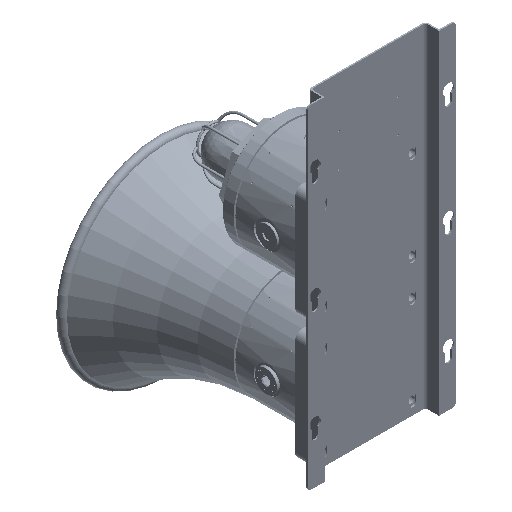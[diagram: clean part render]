
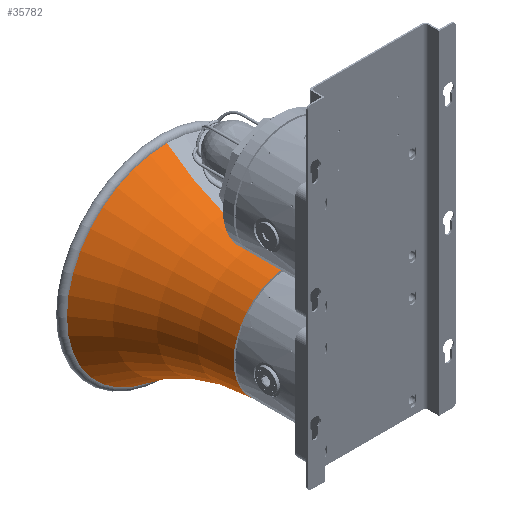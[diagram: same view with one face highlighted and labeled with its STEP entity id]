
A CAD part, isometric view. The second image highlights one B-rep face of the part: STEP entity #35782.
In plain terms, the highlighted toroidal (fillet/blend) face has major radius 340.879 mm and minor radius 265.9 mm.
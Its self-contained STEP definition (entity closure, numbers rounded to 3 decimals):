
#25728=CARTESIAN_POINT('',(0.,0.,-186.91));
#25729=DIRECTION('',(0.,0.,-1.));
#25730=DIRECTION('',(0.,-1.,0.));
#25731=AXIS2_PLACEMENT_3D('',#25728,#25729,#25730);
#28061=CARTESIAN_POINT('',(0.,-340.879,
-18.634));
#28062=DIRECTION('',(-1.,0.,0.));
#28063=DIRECTION('',(0.,1.,-0.013));
#28064=AXIS2_PLACEMENT_3D('',#28061,#28062,#28063);
#28066=CARTESIAN_POINT('',(0.,340.879,
-18.634));
#28067=DIRECTION('',(1.,0.,0.));
#28068=DIRECTION('',(0.,-1.,-0.013));
#28069=AXIS2_PLACEMENT_3D('',#28066,#28067,#28068);
#28071=CARTESIAN_POINT('',(0.,0.,-22.));
#28072=DIRECTION('',(0.,0.,-1.));
#28073=DIRECTION('',(0.,-1.,0.));
#28074=AXIS2_PLACEMENT_3D('',#28071,#28072,#28073);
#32003=CARTESIAN_POINT('',(0.,-135.,-186.91));
#32005=VERTEX_POINT('',#32003);
#32023=CARTESIAN_POINT('',(0.,-75.,-22.));
#32024=VERTEX_POINT('',#32023);
#32025=CARTESIAN_POINT('',(0.,135.,-186.91));
#32027=VERTEX_POINT('',#32025);
#32045=CARTESIAN_POINT('',(0.,75.,-22.));
#32046=VERTEX_POINT('',#32045);
#35771=CARTESIAN_POINT('',(0.,0.,-18.634));
#35772=DIRECTION('',(0.,0.,1.));
#35773=DIRECTION('',(0.,1.,0.));
#35774=AXIS2_PLACEMENT_3D('',#35771,#35772,#35773);
#35775=TOROIDAL_SURFACE('',#35774,340.879,265.9);
#35776=ORIENTED_EDGE('',*,*,#35762,.T.);
#35777=ORIENTED_EDGE('',*,*,#33962,.T.);
#35778=ORIENTED_EDGE('',*,*,#35765,.F.);
#35779=ORIENTED_EDGE('',*,*,#35712,.F.);
#35780=EDGE_LOOP('',(#35776,#35777,#35778,#35779));
#35781=FACE_OUTER_BOUND('',#35780,.F.);
#35782=ADVANCED_FACE('',(#35781),#35775,.F.);
#25732=CIRCLE('',#25731,135.);
#28065=CIRCLE('',#28064,265.9);
#28070=CIRCLE('',#28069,265.9);
#28075=CIRCLE('',#28074,75.);
#33962=EDGE_CURVE('',#32005,#32027,#25732,.T.);
#35712=EDGE_CURVE('',#32024,#32046,#28075,.T.);
#35762=EDGE_CURVE('',#32024,#32005,#28065,.T.);
#35765=EDGE_CURVE('',#32046,#32027,#28070,.T.);
